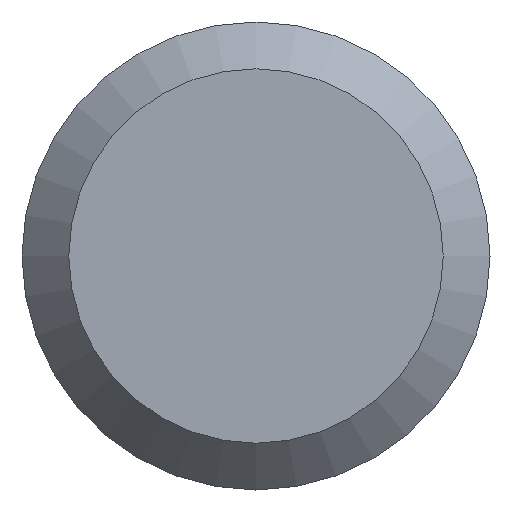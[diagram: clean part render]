
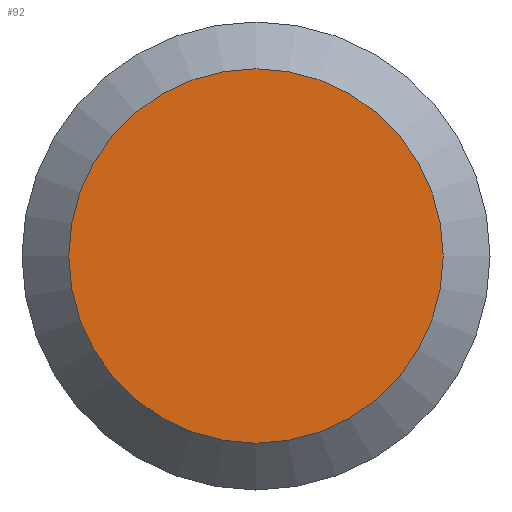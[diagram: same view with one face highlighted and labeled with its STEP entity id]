
A CAD part, left-side view. The second image highlights one B-rep face of the part: STEP entity #92.
In plain terms, the highlighted planar face has unit normal (-1, 0, 0).
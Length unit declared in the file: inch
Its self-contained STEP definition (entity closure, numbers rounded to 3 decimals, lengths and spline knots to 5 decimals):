
#3 = DIRECTION ( 'NONE',  ( 0., 0., -1. ) ) ;
#18 = ORIENTED_EDGE ( 'NONE', *, *, #163, .T. ) ;
#21 = CARTESIAN_POINT ( 'NONE',  ( 0., 0.1005, 0. ) ) ;
#33 = DIRECTION ( 'NONE',  ( -1., 0., 0. ) ) ;
#92 = ADVANCED_FACE ( 'NONE', ( #239 ), #226, .F. ) ;
#103 = EDGE_LOOP ( 'NONE', ( #18 ) ) ;
#121 = AXIS2_PLACEMENT_3D ( 'NONE', #21, #127, #186 ) ;
#125 = CIRCLE ( 'NONE', #126, 0.0804 ) ;
#126 = AXIS2_PLACEMENT_3D ( 'NONE', #135, #33, #3 ) ;
#127 = DIRECTION ( 'NONE',  ( 1., 0., 0. ) ) ;
#135 = CARTESIAN_POINT ( 'NONE',  ( 0., 0., 0. ) ) ;
#142 = VERTEX_POINT ( 'NONE', #162 ) ;
#162 = CARTESIAN_POINT ( 'NONE',  ( 0., 0., -0.0804 ) ) ;
#163 = EDGE_CURVE ( 'NONE', #142, #142, #125, .T. ) ;
#186 = DIRECTION ( 'NONE',  ( 0., 0., -1. ) ) ;
#226 = PLANE ( 'NONE',  #121 ) ;
#239 = FACE_OUTER_BOUND ( 'NONE', #103, .T. ) ;
